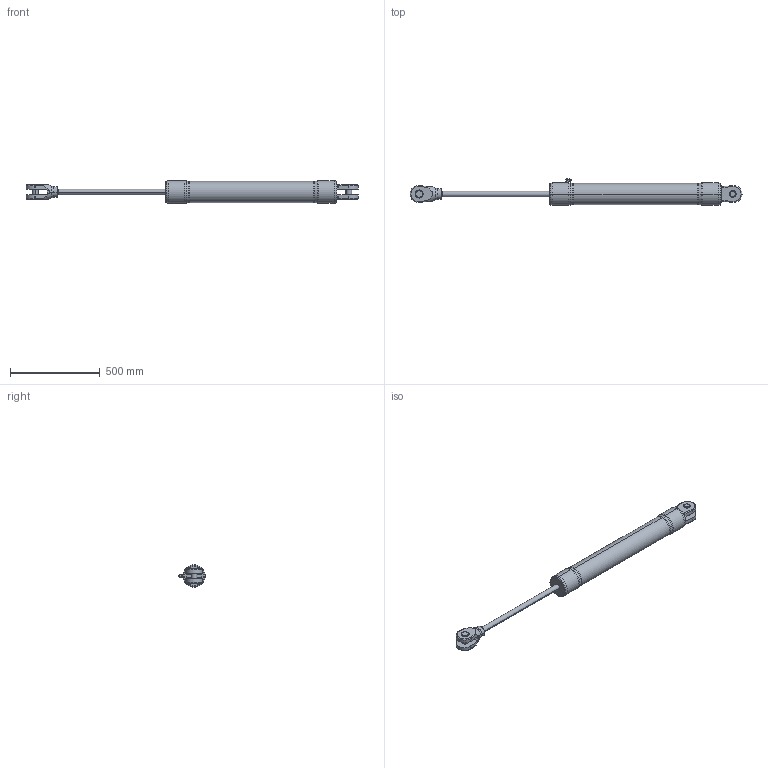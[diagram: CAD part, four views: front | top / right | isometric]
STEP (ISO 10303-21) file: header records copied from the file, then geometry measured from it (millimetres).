
FILE_DESCRIPTION (( 'STEP AP203' ), '1' );
FILE_NAME ('CL_100_S_0600.STEP', '2018-05-31T07:47:13', ( 'utente' ), ( 'Hewlett-Packard Company' ), 'SwSTEP 2.0', 'SolidWorks 2015', '' );
FILE_SCHEMA (( 'CONFIG_CONTROL_DESIGN' ));
Length unit declared in the file: millimetre
Products named in the file (1): CL_100_S_0600
Bounding box: 1847.35 x 147.5 x 125 mm (x, y, z)
Volume: 12385024.5 mm3; surface area: 560054 mm2
Topology: 1 solids, 1 shells, 210 faces, 507 edges, 312 vertices
Faces by surface type: plane 78, cylinder 74, torus 30, cone 28
Entity records: 6864 total; most frequent: CARTESIAN_POINT 1784, DIRECTION 1123, ORIENTED_EDGE 1014, EDGE_CURVE 507, AXIS2_PLACEMENT_3D 449, VERTEX_POINT 312, CIRCLE 238, EDGE_LOOP 227
